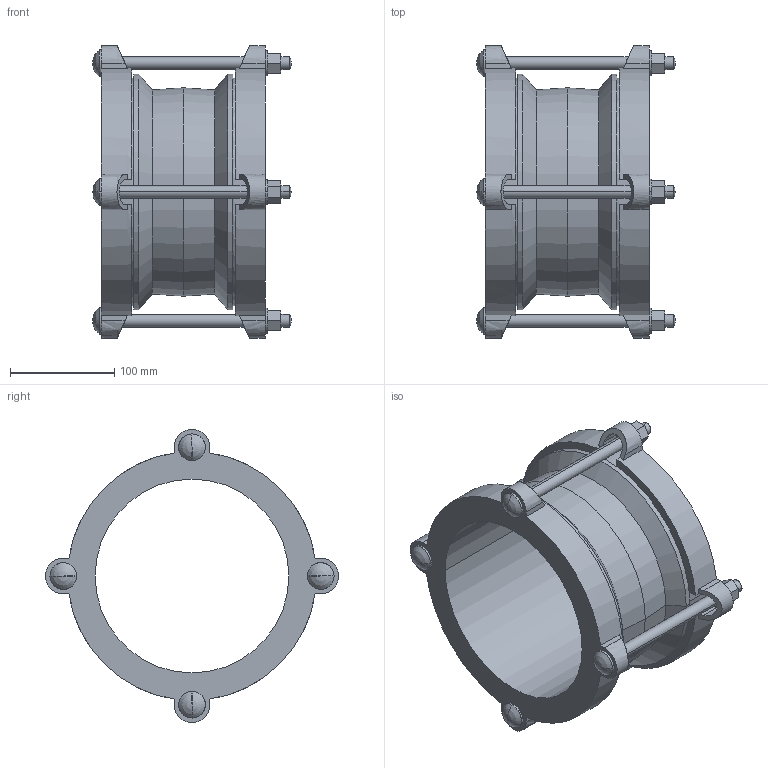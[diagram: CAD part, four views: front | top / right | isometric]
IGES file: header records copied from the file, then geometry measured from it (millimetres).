
Start section:  PTC IGES file: MAXIFIT_158-184.igs
Global section: file name: MAXIFIT_158-184.igs; native system: Creo Parametric by PTC Inc.; preprocessor: 2016130; author: MReader; organization: Unknown; date: 20180831.132533; units: millimetre
Bounding box: 190.33 x 280.5 x 280.5 mm (x, y, z)
Surface area: 316361 mm2 (no closed solid volume)
Topology: 0 solids, 0 shells, 198 faces, 1016 edges, 1000 vertices
Faces by surface type: bspline 108, revolution 90
